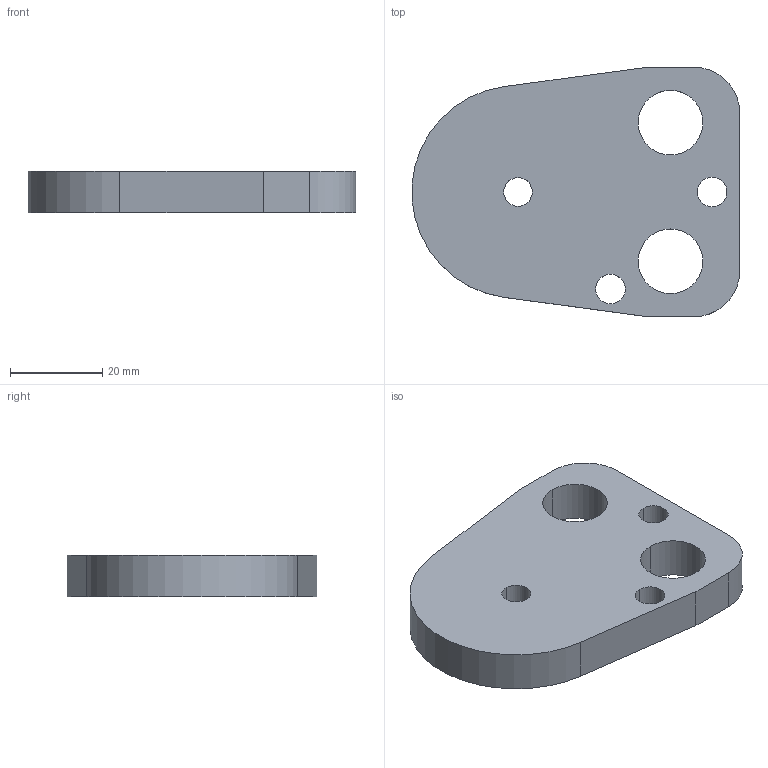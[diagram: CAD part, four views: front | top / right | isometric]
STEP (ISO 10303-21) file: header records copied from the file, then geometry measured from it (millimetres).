
FILE_DESCRIPTION(/* description */ (''),/* implementation_level */ '2;1');
FILE_NAME(/* name */ '3d_bpc32-9_03401_r00.stp',/* time_stamp */ '2011-01-10T14:17:09+09:00',/* author */ ('MISUMI'),/* organization */ (''),/* preprocessor_version */ 'ST-DEVELOPER v11',/* originating_system */ 'UGS - NX 5.0',/* authorisation */ '');
FILE_SCHEMA (('CONFIG_CONTROL_DESIGN'));
Length unit declared in the file: millimetre
Products named in the file (1): 3d_bpc32-9_03401_r00
Bounding box: 70.92 x 54 x 9 mm (x, y, z)
Volume: 25847.4 mm3; surface area: 9000.7 mm2
Topology: 1 solids, 1 shells, 20 faces, 54 edges, 36 vertices
Faces by surface type: cylinder 13, plane 7
Entity records: 750 total; most frequent: DIRECTION 122, CARTESIAN_POINT 111, ORIENTED_EDGE 108, EDGE_CURVE 54, AXIS2_PLACEMENT_3D 47, VERTEX_POINT 36, EDGE_LOOP 30, LINE 28
